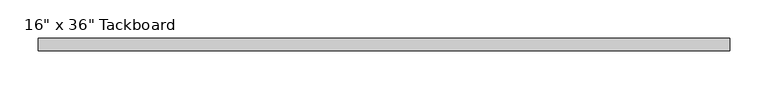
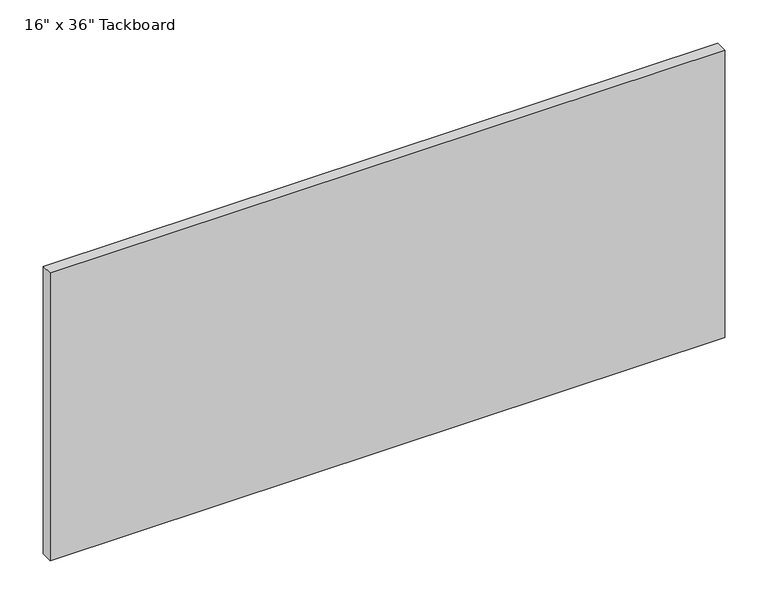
"""IFC4 building model written with IfcOpenShell, lengths in millimetres: furniture geometry."""

from ifc_helpers import new_model, si_unit, frame, origin, place, context, project, spatial, polyline, outline, extrude, source, transform, mapped, element, save


def furniture_580ccd05(model_context):
    return source(origin(), model_context, "Body", "SweptSolid", [
        extrude(outline(polyline([(453.2902902, -28.8968594), (-448.4097098, -28.8968594), (-448.4097098, -13.0218594), (453.2902902, -13.0218594), (453.2902902, -28.8968594)])), frame((0.0, 0.0, 1066.8), z_axis=(0.0, 0.0, 1.0), x_axis=(1.0, 0.0, 0.0)), (0.0, 0.0, 1.0), 406.4),
    ])


if __name__ == "__main__":
    model = new_model("IFC4")
    model_context = context("Model", 3, world=origin())
    ifc_project = project(units=[si_unit("LENGTHUNIT", "METRE", prefix="MILLI")], contexts=[model_context])
    site = spatial("IfcSite", under=ifc_project)
    building = spatial("IfcBuilding", under=site)
    placement = place(None, origin())
    furniture_shape = furniture_580ccd05(model_context)
    element("IfcFurniture", 1, ObjectType="Haworth_Premise-Panel_Accessories-External_Mount_Special : 16\" x 36\" Tackboard", at=placement, inside=building, context=model_context, shape_type="MappedRepresentation", body=[
        mapped(furniture_shape, transform((0.0, 0.0, 0.0), x_axis=(1.0, 0.0, 0.0), y_axis=(0.0, 1.0, 0.0), z_axis=(0.0, 0.0, 1.0))),
    ])
    save(model, "model.ifc")
